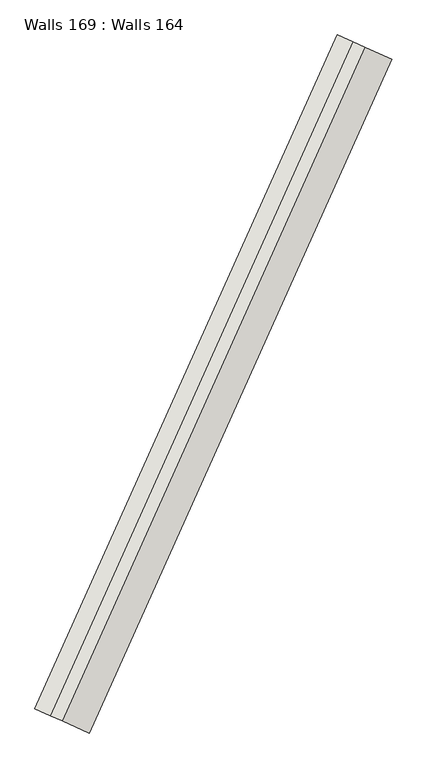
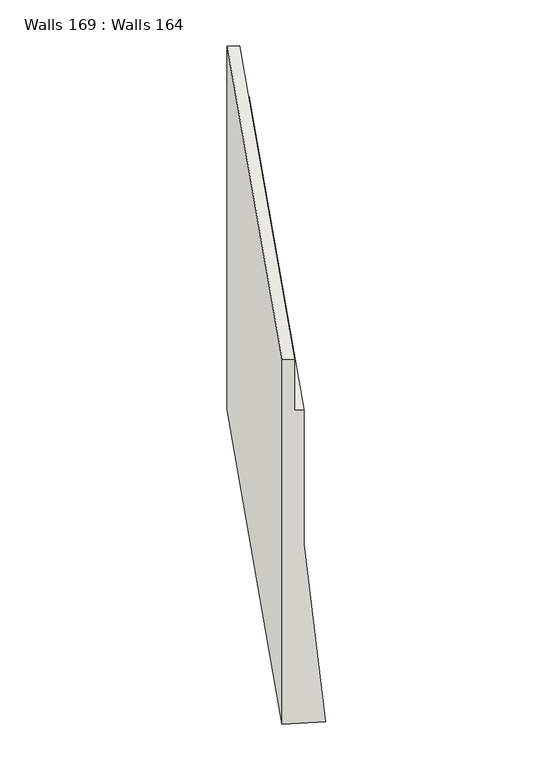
"""IFC4 building model written with IfcOpenShell, lengths in millimetres: wall geometry, Walls 169 : Walls 164."""

from ifc_helpers import new_model, si_unit, origin, place, context, project, spatial, faceted_brep, source, transform, mapped, element, save


def walls_169_walls_164_2a3532ef(model_context):
    return source(origin(), model_context, "Body", "Brep", [
        faceted_brep([(196870.467992, 79727.0170434, 642280.0), (196551.1725238, 79870.3711643, 645780.0), (196551.1725238, 79870.3711643, 648410.0), (196414.3316088, 79931.8086446, 648410.0), (196414.3316088, 79931.8086446, 649410.0), (196231.8770556, 80013.7252851, 649410.0), (196231.8770556, 80013.7252851, 642280.0), (200433.8418536, 87663.7901108, 642390.0), (199795.2509171, 87950.4983526, 642390.0), (199795.2509171, 87950.4983526, 649490.0), (199977.7054704, 87868.5817121, 649490.0), (199977.7054704, 87868.5817121, 648490.0), (200114.5463854, 87807.1442317, 648490.0), (200114.5463854, 87807.1442317, 645890.0)], [[[0, 1, 2, 3, 4, 5, 6]], [[7, 8, 9, 10, 11, 12, 13]], [[7, 13, 1, 0]], [[13, 12, 2, 1]], [[12, 11, 3, 2]], [[11, 10, 4, 3]], [[10, 9, 5, 4]], [[9, 8, 6, 5]], [[8, 7, 0, 6]]]),
    ])


if __name__ == "__main__":
    model = new_model("IFC4")
    model_context = context("Model", 3, world=origin())
    ifc_project = project(units=[si_unit("LENGTHUNIT", "METRE", prefix="MILLI")], contexts=[model_context])
    site = spatial("IfcSite", under=ifc_project)
    building = spatial("IfcBuilding", under=site)
    placement = place(None, origin())
    walls_169_walls_164_shape = walls_169_walls_164_2a3532ef(model_context)
    element("IfcWall", 1, ObjectType="Walls 169 : Walls 164", at=placement, inside=building, context=model_context, shape_type="MappedRepresentation", body=[
        mapped(walls_169_walls_164_shape, transform((0.0, 0.0, 0.0), x_axis=(1.0, 0.0, 0.0), y_axis=(0.0, 1.0, 0.0), z_axis=(0.0, 0.0, 1.0))),
    ])
    save(model, "model.ifc")
